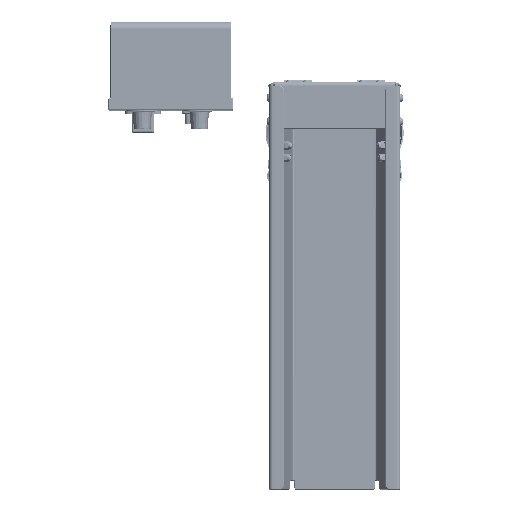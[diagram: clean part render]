
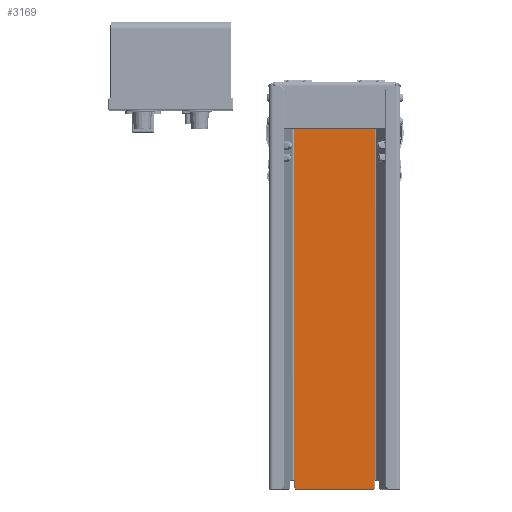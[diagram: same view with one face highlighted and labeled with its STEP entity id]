
A CAD part, top view. The second image highlights one B-rep face of the part: STEP entity #3169.
In plain terms, the highlighted planar face has unit normal (0, 0, 1).
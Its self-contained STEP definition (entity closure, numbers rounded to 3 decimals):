
#3169 = ADVANCED_FACE ( 'NONE', ( #43169 ), #139515, .T. ) ;
#3815 = CARTESIAN_POINT ( 'NONE',  ( 43.158, -198.794, 0. ) ) ;
#3952 = AXIS2_PLACEMENT_3D ( 'NONE', #29255, #147170, #41538 ) ;
#4246 = CARTESIAN_POINT ( 'NONE',  ( -43.145, -198.791, 0. ) ) ;
#4545 = LINE ( 'NONE', #39246, #70273 ) ;
#8064 = VECTOR ( 'NONE', #22151, 1000. ) ;
#8372 = DIRECTION ( 'NONE',  ( -1., 0., 0. ) ) ;
#21462 = ORIENTED_EDGE ( 'NONE', *, *, #120999, .T. ) ;
#22008 = EDGE_CURVE ( 'NONE', #85563, #112867, #107521, .T. ) ;
#22151 = DIRECTION ( 'NONE',  ( 0., 1., 0. ) ) ;
#24458 = CARTESIAN_POINT ( 'NONE',  ( 43.145, 188.8, 0. ) ) ;
#26150 = DIRECTION ( 'NONE',  ( 0., 0., 1. ) ) ;
#26989 = CARTESIAN_POINT ( 'NONE',  ( 43.145, -198.791, 0. ) ) ;
#27255 = CARTESIAN_POINT ( 'NONE',  ( -43.145, -198.791, 0. ) ) ;
#29249 = VERTEX_POINT ( 'NONE', #95107 ) ;
#29255 = CARTESIAN_POINT ( 'NONE',  ( 40.145, 196.5, 0. ) ) ;
#29591 = B_SPLINE_CURVE_WITH_KNOTS ( 'NONE', 3,
 ( #4246, #41204, #73586, #120658 ),
 .UNSPECIFIED., .F., .F.,
 ( 4, 4 ),
 ( 0., 1. ),
 .UNSPECIFIED. ) ;
#30895 = CARTESIAN_POINT ( 'NONE',  ( 43.183, -198.8, 0. ) ) ;
#31139 = VERTEX_POINT ( 'NONE', #42633 ) ;
#32048 = LINE ( 'NONE', #139189, #131369 ) ;
#32255 = ORIENTED_EDGE ( 'NONE', *, *, #69135, .T. ) ;
#33260 = ORIENTED_EDGE ( 'NONE', *, *, #109236, .F. ) ;
#34058 = DIRECTION ( 'NONE',  ( -1., 0., 0. ) ) ;
#34212 = VERTEX_POINT ( 'NONE', #97953 ) ;
#34924 = EDGE_CURVE ( 'NONE', #133003, #29249, #56010, .T. ) ;
#35427 = CARTESIAN_POINT ( 'NONE',  ( 0., 0., 0. ) ) ;
#36945 = DIRECTION ( 'NONE',  ( 1., 0., 0. ) ) ;
#37662 = CARTESIAN_POINT ( 'NONE',  ( 43.145, -198.791, 0. ) ) ;
#39246 = CARTESIAN_POINT ( 'NONE',  ( 42.445, 196.5, 0. ) ) ;
#40092 = ORIENTED_EDGE ( 'NONE', *, *, #40937, .T. ) ;
#40937 = EDGE_CURVE ( 'NONE', #133003, #131210, #29591, .T. ) ;
#41204 = CARTESIAN_POINT ( 'NONE',  ( -43.158, -198.794, 0. ) ) ;
#41538 = DIRECTION ( 'NONE',  ( 1., 0., 0. ) ) ;
#42485 = EDGE_CURVE ( 'NONE', #34212, #71890, #139303, .T. ) ;
#42633 = CARTESIAN_POINT ( 'NONE',  ( 42.445, 188.8, 0. ) ) ;
#42756 = B_SPLINE_CURVE_WITH_KNOTS ( 'NONE', 3,
 ( #135610, #99351, #3815, #26989 ),
 .UNSPECIFIED., .F., .F.,
 ( 4, 4 ),
 ( 0., 1. ),
 .UNSPECIFIED. ) ;
#43169 = FACE_OUTER_BOUND ( 'NONE', #55459, .T. ) ;
#49991 = DIRECTION ( 'NONE',  ( 0., 1., 0. ) ) ;
#52036 = ORIENTED_EDGE ( 'NONE', *, *, #96736, .T. ) ;
#53045 = LINE ( 'NONE', #124758, #123988 ) ;
#55459 = EDGE_LOOP ( 'NONE', ( #40092, #32255, #122185, #33260, #52036, #147514, #84605, #21462, #91999, #56447, #96339, #119348 ) ) ;
#56010 = LINE ( 'NONE', #151642, #8064 ) ;
#56447 = ORIENTED_EDGE ( 'NONE', *, *, #120921, .T. ) ;
#69092 = VERTEX_POINT ( 'NONE', #80929 ) ;
#69135 = EDGE_CURVE ( 'NONE', #131210, #138843, #114889, .T. ) ;
#70273 = VECTOR ( 'NONE', #49991, 1000. ) ;
#71890 = VERTEX_POINT ( 'NONE', #109424 ) ;
#72221 = VECTOR ( 'NONE', #114709, 1000. ) ;
#73586 = CARTESIAN_POINT ( 'NONE',  ( -43.171, -198.797, 0. ) ) ;
#74155 = EDGE_CURVE ( 'NONE', #138843, #80290, #42756, .T. ) ;
#74507 = DIRECTION ( 'NONE',  ( 1., 0., 0. ) ) ;
#76792 = VERTEX_POINT ( 'NONE', #106986 ) ;
#78514 = VECTOR ( 'NONE', #82247, 1000. ) ;
#80290 = VERTEX_POINT ( 'NONE', #37662 ) ;
#80734 = LINE ( 'NONE', #24458, #78514 ) ;
#80929 = CARTESIAN_POINT ( 'NONE',  ( -42.445, 188.8, 0. ) ) ;
#82247 = DIRECTION ( 'NONE',  ( -1., 0., 0. ) ) ;
#84605 = ORIENTED_EDGE ( 'NONE', *, *, #42485, .T. ) ;
#85563 = VERTEX_POINT ( 'NONE', #97058 ) ;
#91999 = ORIENTED_EDGE ( 'NONE', *, *, #22008, .T. ) ;
#95107 = CARTESIAN_POINT ( 'NONE',  ( -43.145, 188.8, 0. ) ) ;
#96339 = ORIENTED_EDGE ( 'NONE', *, *, #144755, .T. ) ;
#96736 = EDGE_CURVE ( 'NONE', #76792, #31139, #80734, .T. ) ;
#96893 = DIRECTION ( 'NONE',  ( 0., 0., 1. ) ) ;
#97058 = CARTESIAN_POINT ( 'NONE',  ( -40.145, 198.8, 0. ) ) ;
#97953 = CARTESIAN_POINT ( 'NONE',  ( 42.445, 196.5, 0. ) ) ;
#99351 = CARTESIAN_POINT ( 'NONE',  ( 43.171, -198.797, 0. ) ) ;
#100133 = AXIS2_PLACEMENT_3D ( 'NONE', #133910, #96893, #74507 ) ;
#101611 = CARTESIAN_POINT ( 'NONE',  ( -42.445, 189.5, 0. ) ) ;
#106756 = DIRECTION ( 'NONE',  ( 0., -1., 0. ) ) ;
#106986 = CARTESIAN_POINT ( 'NONE',  ( 43.145, 188.8, 0. ) ) ;
#107521 = CIRCLE ( 'NONE', #100133, 2.3 ) ;
#109236 = EDGE_CURVE ( 'NONE', #76792, #80290, #32048, .T. ) ;
#109424 = CARTESIAN_POINT ( 'NONE',  ( 40.145, 198.8, 0. ) ) ;
#112867 = VERTEX_POINT ( 'NONE', #120441 ) ;
#113122 = VECTOR ( 'NONE', #150364, 1000. ) ;
#114583 = AXIS2_PLACEMENT_3D ( 'NONE', #35427, #26150, #36945 ) ;
#114709 = DIRECTION ( 'NONE',  ( 0., -1., 0. ) ) ;
#114889 = LINE ( 'NONE', #138781, #113122 ) ;
#119348 = ORIENTED_EDGE ( 'NONE', *, *, #34924, .F. ) ;
#120441 = CARTESIAN_POINT ( 'NONE',  ( -42.445, 196.5, 0. ) ) ;
#120658 = CARTESIAN_POINT ( 'NONE',  ( -43.183, -198.8, 0. ) ) ;
#120921 = EDGE_CURVE ( 'NONE', #112867, #69092, #123250, .T. ) ;
#120999 = EDGE_CURVE ( 'NONE', #71890, #85563, #53045, .T. ) ;
#122185 = ORIENTED_EDGE ( 'NONE', *, *, #74155, .T. ) ;
#123250 = LINE ( 'NONE', #101611, #72221 ) ;
#123988 = VECTOR ( 'NONE', #8372, 1000. ) ;
#124758 = CARTESIAN_POINT ( 'NONE',  ( 0., 198.8, 0. ) ) ;
#131210 = VERTEX_POINT ( 'NONE', #146250 ) ;
#131369 = VECTOR ( 'NONE', #106756, 1000. ) ;
#133003 = VERTEX_POINT ( 'NONE', #27255 ) ;
#133910 = CARTESIAN_POINT ( 'NONE',  ( -40.145, 196.5, 0. ) ) ;
#135610 = CARTESIAN_POINT ( 'NONE',  ( 43.183, -198.8, 0. ) ) ;
#138781 = CARTESIAN_POINT ( 'NONE',  ( 0., -198.8, 0. ) ) ;
#138843 = VERTEX_POINT ( 'NONE', #30895 ) ;
#139040 = EDGE_CURVE ( 'NONE', #31139, #34212, #4545, .T. ) ;
#139189 = CARTESIAN_POINT ( 'NONE',  ( 43.145, 199.5, 0. ) ) ;
#139303 = CIRCLE ( 'NONE', #3952, 2.3 ) ;
#139515 = PLANE ( 'NONE',  #114583 ) ;
#141185 = LINE ( 'NONE', #150478, #147237 ) ;
#144755 = EDGE_CURVE ( 'NONE', #69092, #29249, #141185, .T. ) ;
#146250 = CARTESIAN_POINT ( 'NONE',  ( -43.183, -198.8, 0. ) ) ;
#147170 = DIRECTION ( 'NONE',  ( 0., 0., 1. ) ) ;
#147237 = VECTOR ( 'NONE', #34058, 1000. ) ;
#147514 = ORIENTED_EDGE ( 'NONE', *, *, #139040, .T. ) ;
#150364 = DIRECTION ( 'NONE',  ( 1., 0., 0. ) ) ;
#150478 = CARTESIAN_POINT ( 'NONE',  ( -45.077, 188.8, 0. ) ) ;
#151642 = CARTESIAN_POINT ( 'NONE',  ( -43.145, -200.054, 0. ) ) ;
